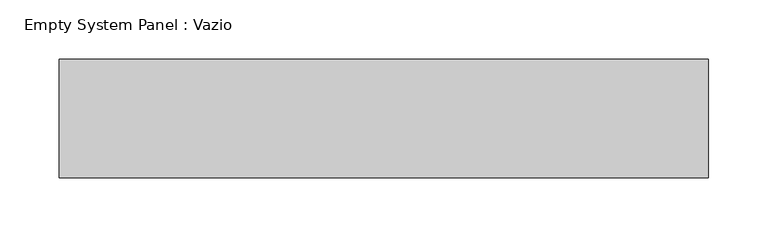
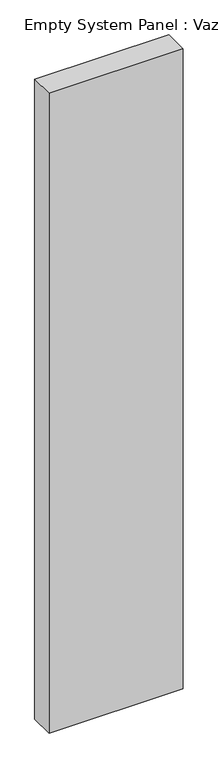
"""IFC4 building model written with IfcOpenShell, lengths in millimetres: plate geometry, Empty System Panel : Vazio."""

import ifcopenshell
import ifcopenshell.guid

model = None  # the IFC model being written
_history = None  # IfcOwnerHistory: only IFC2X3 demands one
_inside = {}  # id of a spatial element -> (the spatial element, [elements in it])
_under = {}  # id of a project, library or spatial element -> (it, [spatial elements below it])
_declared = {}  # id of a project -> (the project, [libraries it declares])
_typed = {}  # id of a type object -> (the type object, [elements of that type])
_made_of = {}  # id of a material, layer set ... -> (it, [elements and type objects made of it])


def new_model(schema):
    """Start an empty IFC model of exactly this schema.

    Asked for "IFC4X3", IfcOpenShell would pick the latest addendum, in which some entities
    have other attributes; the version numbers below select the first issue.
    IFC2X3 requires an IfcOwnerHistory on every rooted entity: one is made here for all.
    """
    global model, _history
    if schema == "IFC4X3":
        model = ifcopenshell.file(schema_version=(4, 3, 0, 0))
    else:
        model = ifcopenshell.file(schema=schema)
    _inside.clear()
    _under.clear()
    _declared.clear()
    _typed.clear()
    _made_of.clear()
    _history = None
    if model.schema == "IFC2X3":
        org = make("IfcOrganization", Name="unknown")
        user = make(
            "IfcPersonAndOrganization",
            ThePerson=make("IfcPerson", FamilyName="unknown"),
            TheOrganization=org,
        )
        app = make(
            "IfcApplication",
            ApplicationDeveloper=org,
            Version="unknown",
            ApplicationFullName="unknown",
            ApplicationIdentifier="unknown",
        )
        _history = make(
            "IfcOwnerHistory",
            OwningUser=user,
            OwningApplication=app,
            ChangeAction="ADDED",
            CreationDate=0,
        )
    return model


def make(cls, **values):
    """One entity of the class cls with the attributes given. An attribute that is None is left unset."""
    return model.create_entity(
        cls, **{name: value for name, value in values.items() if value is not None}
    )


def rooted(cls, **values):
    """An entity with a GlobalId (a new one), such as an element, a storey or a relation."""
    return make(cls, GlobalId=ifcopenshell.guid.new(), OwnerHistory=_history, **values)


def si_unit(unit_type, name, prefix=None):
    """IfcSIUnit, for example si_unit("LENGTHUNIT", "METRE", prefix="MILLI")."""
    return make("IfcSIUnit", UnitType=unit_type, Prefix=prefix, Name=name)


def assignment(units):
    """IfcUnitAssignment: the units of a project."""
    return None if units is None else make("IfcUnitAssignment", Units=units)


def point(xyz):
    """IfcCartesianPoint."""
    return None if xyz is None else make("IfcCartesianPoint", Coordinates=xyz)


def direction(xyz):
    """IfcDirection."""
    return None if xyz is None else make("IfcDirection", DirectionRatios=xyz)


def frame(location, z_axis=None, x_axis=None):
    """IfcAxis2Placement3D, a coordinate frame: its origin and axes. An axis left out is left unset."""
    return make(
        "IfcAxis2Placement3D",
        Location=point(location),
        Axis=direction(z_axis),
        RefDirection=direction(x_axis),
    )


def origin():
    """The frame at (0, 0, 0) with its axes left unset."""
    return frame((0.0, 0.0, 0.0))


def origin_with_axes():
    """The frame at (0, 0, 0) with the z axis (0, 0, 1) and the x axis (1, 0, 0) written out."""
    return frame((0.0, 0.0, 0.0), z_axis=(0.0, 0.0, 1.0), x_axis=(1.0, 0.0, 0.0))


def place(relative_to, where):
    """IfcLocalPlacement: puts the frame where relative to a parent placement (None: the world)."""
    return make(
        "IfcLocalPlacement", PlacementRelTo=relative_to, RelativePlacement=where
    )


def context(
    kind, dimensions, precision=None, world=None, true_north=None, identifier=None
):
    """IfcGeometricRepresentationContext, for example the 3D "Model" context."""
    return make(
        "IfcGeometricRepresentationContext",
        ContextIdentifier=identifier,
        ContextType=kind,
        CoordinateSpaceDimension=dimensions,
        Precision=precision,
        WorldCoordinateSystem=world,
        TrueNorth=true_north,
    )


def project(units=None, contexts=None):
    """IfcProject with its units and contexts."""
    return rooted(
        "IfcProject",
        Name="project",
        RepresentationContexts=contexts,
        UnitsInContext=assignment(units),
    )


def spatial(cls, under=None, at=None, **own):
    """A site, building, storey or space (cls), placed at a placement, below another one or the project."""
    s = rooted(cls, ObjectPlacement=at, **own)
    if under is not None:
        _under.setdefault(under.id(), (under, []))[1].append(s)
    return s


def polyline(points):
    """IfcPolyline through the points."""
    return make("IfcPolyline", Points=[point(p) for p in points])


def outline(outer, holes=None, kind="AREA"):
    """IfcArbitraryClosedProfileDef: a profile drawn as a closed curve; with holes, ...WithVoids."""
    if holes is None:
        return make("IfcArbitraryClosedProfileDef", ProfileType=kind, OuterCurve=outer)
    return make(
        "IfcArbitraryProfileDefWithVoids",
        ProfileType=kind,
        OuterCurve=outer,
        InnerCurves=holes,
    )


def extrude(swept, where, along, depth):
    """IfcExtrudedAreaSolid: the profile swept, set in the frame where, extruded along a direction by depth."""
    return make(
        "IfcExtrudedAreaSolid",
        SweptArea=swept,
        Position=where,
        ExtrudedDirection=direction(along),
        Depth=depth,
    )


def shape(context_of_items, identifier, shape_type, items):
    """IfcShapeRepresentation: the items that make up one representation, for example the "Body"."""
    return make(
        "IfcShapeRepresentation",
        ContextOfItems=context_of_items,
        RepresentationIdentifier=identifier,
        RepresentationType=shape_type,
        Items=items,
    )


def source(mapping_origin, context_of_items, identifier, shape_type, items):
    """IfcRepresentationMap: a shape defined once, which mapped items show again and again."""
    return make(
        "IfcRepresentationMap",
        MappingOrigin=mapping_origin,
        MappedRepresentation=shape(context_of_items, identifier, shape_type, items),
    )


def transform(
    local_origin,
    x_axis=None,
    y_axis=None,
    z_axis=None,
    scale=None,
    scale2=None,
    scale3=None,
    uniform=True,
):
    """IfcCartesianTransformationOperator3D, or its non-uniform kind. x_axis, y_axis, z_axis: its Axis1, 2, 3."""
    if uniform:
        return make(
            "IfcCartesianTransformationOperator3D",
            Axis1=direction(x_axis),
            Axis2=direction(y_axis),
            LocalOrigin=point(local_origin),
            Scale=scale,
            Axis3=direction(z_axis),
        )
    return make(
        "IfcCartesianTransformationOperator3DnonUniform",
        Axis1=direction(x_axis),
        Axis2=direction(y_axis),
        LocalOrigin=point(local_origin),
        Scale=scale,
        Axis3=direction(z_axis),
        Scale2=scale2,
        Scale3=scale3,
    )


def mapped(mapping_source, mapping_target):
    """IfcMappedItem: shows the shape of a source again, moved by a transform."""
    return make(
        "IfcMappedItem", MappingSource=mapping_source, MappingTarget=mapping_target
    )


def made_of(thing, what):
    """Note that an element or type object is made of a material, layer set ...; save() writes the relation."""
    if what is not None:
        _made_of.setdefault(what.id(), (what, []))[1].append(thing)
    return thing


def element(
    cls,
    number,
    at=None,
    inside=None,
    cuts=None,
    type_object=None,
    material=None,
    context=None,
    identifier="Body",
    shape_type=None,
    held_by="IfcProductDefinitionShape",
    body=None,
    shapes=None,
    **own,
):
    """One element of the class cls, such as IfcWall. Its Tag is "e" and its number.

    at: its placement. inside: the storey or other place that contains it. cuts: it is an
    opening in that element (IfcRelVoidsElement). A single representation is given by context,
    identifier, shape_type and body (its items); several are given by shapes. held_by: the class
    of the entity that holds the representations. save() writes the other relations.
    """
    e = rooted(cls, Tag="e%d" % number, ObjectPlacement=at, **own)
    if body is not None:
        shapes = [shape(context, identifier, shape_type, body)]
    if shapes is not None:
        e.Representation = make(held_by, Representations=shapes)
    if inside is not None:
        _inside.setdefault(inside.id(), (inside, []))[1].append(e)
    if cuts is not None:
        rooted(
            "IfcRelVoidsElement", RelatingBuildingElement=cuts, RelatedOpeningElement=e
        )
    if type_object is not None:
        _typed.setdefault(type_object.id(), (type_object, []))[1].append(e)
    return made_of(e, material)


def aggregate(whole, parts):
    """IfcRelAggregates: a whole, such as a stair, and the parts it consists of."""
    return rooted("IfcRelAggregates", RelatingObject=whole, RelatedObjects=parts)


def save(model, path):
    """Write the relations noted so far, then the file.

    IfcRelAggregates (storeys below a building ...), IfcRelContainedInSpatialStructure (elements
    in a storey), IfcRelDefinesByType, IfcRelAssociatesMaterial and IfcRelDeclares: one each for
    every whole, place, type object, material and project.
    """
    for whole, parts in _under.values():
        aggregate(whole, parts)
    for where, things in _inside.values():
        rooted(
            "IfcRelContainedInSpatialStructure",
            RelatedElements=things,
            RelatingStructure=where,
        )
    for kind, things in _typed.values():
        rooted("IfcRelDefinesByType", RelatedObjects=things, RelatingType=kind)
    for what, things in _made_of.values():
        rooted("IfcRelAssociatesMaterial", RelatedObjects=things, RelatingMaterial=what)
    for by, libraries in _declared.values():
        rooted("IfcRelDeclares", RelatingContext=by, RelatedDefinitions=libraries)
    model.write(path)


def empty_system_panel_vazio_0a59da35(model_context):
    return source(origin(), model_context, "Body", "SweptSolid", [
        extrude(outline(polyline([(273.674251, 50.0), (-273.674251, 50.0), (-273.674251, 150.0), (273.674251, 150.0), (273.674251, 50.0)])), origin_with_axes(), (0.0, 0.0, 1.0), 2757.5618379),
    ])


if __name__ == "__main__":
    model = new_model("IFC4")
    model_context = context("Model", 3, world=origin())
    ifc_project = project(units=[si_unit("LENGTHUNIT", "METRE", prefix="MILLI")], contexts=[model_context])
    site = spatial("IfcSite", under=ifc_project)
    building = spatial("IfcBuilding", under=site)
    placement = place(None, origin())
    empty_system_panel_vazio_shape = empty_system_panel_vazio_0a59da35(model_context)
    element("IfcPlate", 1, ObjectType="Empty System Panel : Vazio", at=placement, inside=building, context=model_context, shape_type="MappedRepresentation", body=[
        mapped(empty_system_panel_vazio_shape, transform((0.0, 0.0, 0.0), x_axis=(1.0, 0.0, 0.0), y_axis=(0.0, 1.0, 0.0), z_axis=(0.0, 0.0, 1.0))),
    ])
    save(model, "model.ifc")
